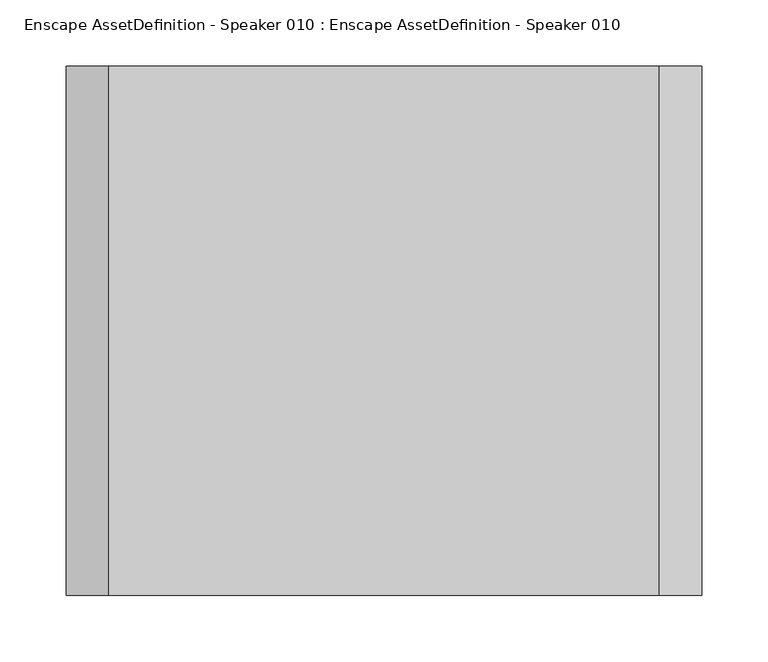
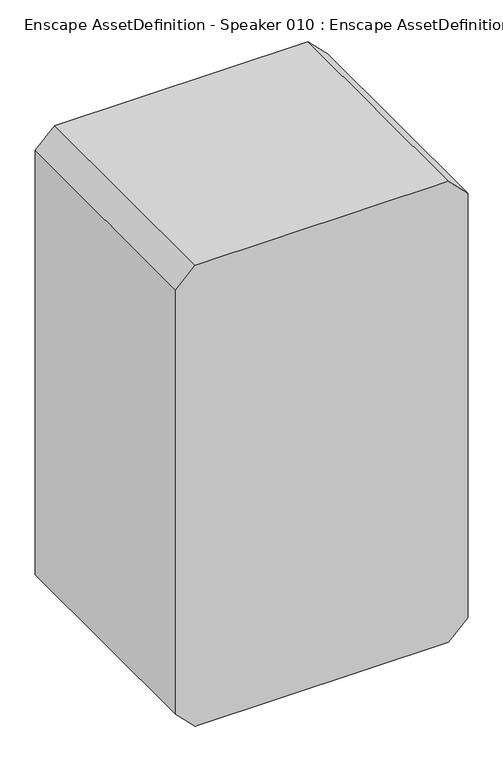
"""IFC4 building model written with IfcOpenShell, lengths in millimetres: geographic element geometry, Enscape AssetDefinition - Speaker 010 : Enscape AssetDefinition - Speaker 010."""

from ifc_helpers import new_model, si_unit, origin, place, context, project, spatial, triangles, source, transform, mapped, element, save


def enscape_assetdefinition_speaker_010_enscape_assetdefinition_adeaf7f6(model_context):
    return source(origin(), model_context, "Body", "Tessellation", [
        triangles([(240.0000127, 200.0000015, 31.9999976), (207.9999856, 200.0000015, 0.0), (240.0000127, 200.0000015, 767.9999971), (-207.9999856, 200.0000015, 0.0), (207.9999856, -200.0000015, 0.0), (-207.9999856, -200.0000015, 0.0), (-240.0000127, 200.0000015, 31.9999976), (-240.0000127, -200.0000015, 31.9999976), (240.0000127, -200.0000015, 31.9999976), (-240.0000127, -200.0000015, 767.9999971), (-207.9999856, -200.0000015, 800.0000061), (-207.9999856, 200.0000015, 800.0000061), (-240.0000127, 200.0000015, 767.9999971), (240.0000127, -200.0000015, 767.9999971), (207.9999856, -200.0000015, 800.0000061), (207.9999856, 200.0000015, 800.0000061)], [[7, 13, 3], [12, 16, 3], [13, 12, 3], [12, 11, 15], [15, 3, 16], [12, 15, 16], [15, 14, 3], [14, 15, 10], [15, 11, 10], [12, 13, 10], [10, 13, 7], [12, 10, 11], [10, 7, 8], [9, 14, 10], [10, 8, 9], [3, 14, 9], [6, 5, 9], [8, 6, 9], [6, 8, 7], [6, 7, 4], [2, 5, 6], [2, 6, 4], [2, 9, 5], [2, 4, 7], [2, 1, 9], [3, 9, 1], [3, 1, 7], [1, 2, 7]]),
    ])


if __name__ == "__main__":
    model = new_model("IFC4")
    model_context = context("Model", 3, world=origin())
    ifc_project = project(units=[si_unit("LENGTHUNIT", "METRE", prefix="MILLI")], contexts=[model_context])
    site = spatial("IfcSite", under=ifc_project)
    building = spatial("IfcBuilding", under=site)
    placement = place(None, origin())
    enscape_assetdefinition_speaker_010_enscape_assetdefinition_shape = enscape_assetdefinition_speaker_010_enscape_assetdefinition_adeaf7f6(model_context)
    element("IfcGeographicElement", 1, ObjectType="Enscape AssetDefinition - Speaker 010 : Enscape AssetDefinition - Speaker 010", at=placement, inside=building, context=model_context, shape_type="MappedRepresentation", body=[
        mapped(enscape_assetdefinition_speaker_010_enscape_assetdefinition_shape, transform((0.0, 0.0, 0.0), x_axis=(1.0, 0.0, 0.0), y_axis=(0.0, 1.0, 0.0), z_axis=(0.0, 0.0, 1.0))),
    ])
    save(model, "model.ifc")
